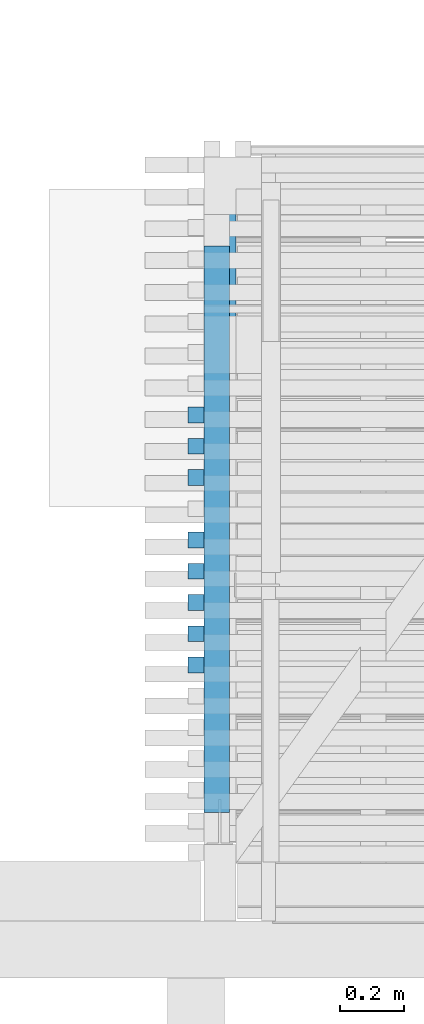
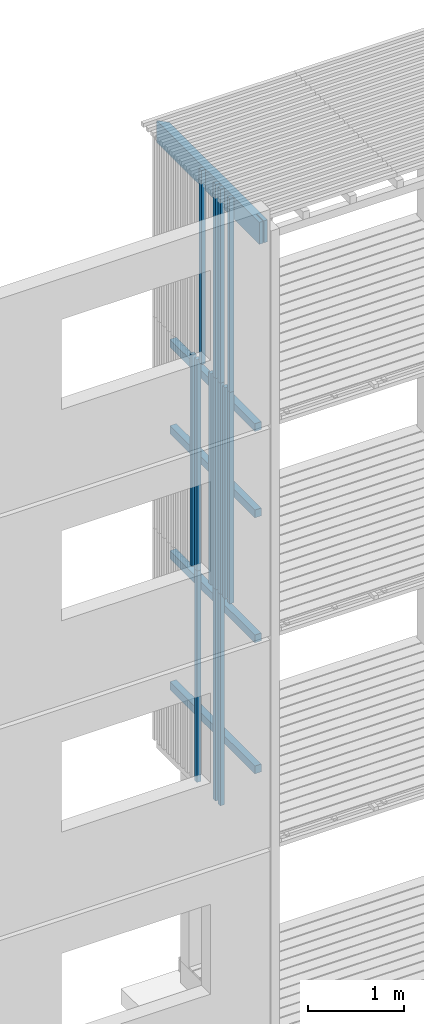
# One storey, part 114 of 182: 19 beams.
"""IFC2X3 building model written with IfcOpenShell, lengths in metres."""

from ifc_helpers import new_model, si_unit, frame, origin, place, context, project, spatial, faceted_brep, element, save


model = new_model("IFC2X3")

# Units and contexts
model_context = context("Model", 3, precision=1e-06, world=origin())
ifc_project = project(units=[si_unit("LENGTHUNIT", "METRE"), si_unit("PLANEANGLEUNIT", "RADIAN")], contexts=[model_context])

# Site, building, storey
site = spatial("IfcSite", under=ifc_project, CompositionType="ELEMENT")
building = spatial("IfcBuilding", under=site, CompositionType="ELEMENT")
storey = spatial("IfcBuildingStorey", under=building, Name="vs", CompositionType="ELEMENT", Elevation=-0.85)

# Beams
placement = place(None, origin())
beam_1_placement = place(placement, frame((53.06499999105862, 5.210077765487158, 3.401250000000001), z_axis=(0.0, 0.0, 1.0), x_axis=(0.0, 1.0, 0.0)))
element("IfcBeam", 1, at=beam_1_placement, inside=storey, Name="Support bardage", context=model_context, shape_type="Brep", body=[
    faceted_brep([(1.779999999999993, 0.039999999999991, -0.050000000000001), (1.779999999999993, 0.039999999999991, 0.05), (1.779999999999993, -0.040000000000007, 0.05), (1.779999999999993, -0.040000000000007, -0.050000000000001), (1.779999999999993, -0.040000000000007, 0.05), (1.779999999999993, 0.039999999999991, 0.05), (-4e-15, 0.039999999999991, 0.05), (-4e-15, -0.040000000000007, 0.05), (-4e-15, 0.039999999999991, 0.05), (1.779999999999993, 0.039999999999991, 0.05), (1.779999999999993, 0.039999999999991, -0.050000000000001), (-4e-15, 0.039999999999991, -0.050000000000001), (1.779999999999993, -0.040000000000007, -0.050000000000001), (1.779999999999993, -0.040000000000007, 0.05), (-4e-15, -0.040000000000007, 0.05), (-4e-15, -0.040000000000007, -0.050000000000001), (-4e-15, 0.039999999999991, -0.050000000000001), (1.779999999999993, 0.039999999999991, -0.050000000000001), (1.779999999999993, -0.040000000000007, -0.050000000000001), (-4e-15, -0.040000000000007, -0.050000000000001), (-4e-15, 0.039999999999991, 0.05), (-4e-15, 0.039999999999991, -0.050000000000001), (-4e-15, -0.040000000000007, -0.050000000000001), (-4e-15, -0.040000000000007, 0.05)], [[[0, 1, 2, 3]], [[4, 5, 6, 7]], [[8, 9, 10, 11]], [[12, 13, 14, 15]], [[16, 17, 18, 19]], [[20, 21, 22, 23]]]),
])
beam_2_placement = place(placement, frame((52.999999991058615, 5.968714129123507, 5.274999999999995), z_axis=(1.0, 0.0, 0.0), x_axis=(0.0, 0.0, 1.0)))
element("IfcBeam", 2, at=beam_2_placement, inside=storey, Name="Bardage", context=model_context, shape_type="Brep", body=[
    faceted_brep([(2.699999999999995, 0.025000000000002, 0.025000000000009), (2.699999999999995, -0.024999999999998, 0.025000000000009), (2.699999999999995, -0.024999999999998, -0.025000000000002), (2.699999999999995, 0.025000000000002, -0.025000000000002), (1e-15, 0.025000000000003, 0.025000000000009), (2.699999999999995, 0.025000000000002, 0.025000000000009), (2.699999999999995, 0.025000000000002, -0.025000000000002), (1e-15, 0.025000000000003, -0.025000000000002), (1e-15, -0.024999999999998, 0.025000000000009), (1e-15, 0.025000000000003, 0.025000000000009), (1e-15, 0.025000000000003, -0.025000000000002), (1e-15, -0.024999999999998, -0.025000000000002), (1e-15, 0.025000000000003, 0.025000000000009), (1e-15, -0.024999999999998, 0.025000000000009), (2.699999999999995, -0.024999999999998, 0.025000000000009), (2.699999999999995, 0.025000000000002, 0.025000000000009), (1e-15, -0.024999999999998, 0.025000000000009), (1e-15, -0.024999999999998, -0.025000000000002), (2.699999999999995, -0.024999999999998, -0.025000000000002), (2.699999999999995, -0.024999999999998, 0.025000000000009), (1e-15, -0.024999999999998, -0.025000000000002), (1e-15, 0.025000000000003, -0.025000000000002), (2.699999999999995, 0.025000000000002, -0.025000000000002), (2.699999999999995, -0.024999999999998, -0.025000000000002)], [[[0, 1, 2, 3]], [[4, 5, 6, 7]], [[8, 9, 10, 11]], [[12, 13, 14, 15]], [[16, 17, 18, 19]], [[20, 21, 22, 23]]]),
])
beam_3_placement = place(placement, frame((53.06499999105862, 5.210077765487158, 6.672499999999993), z_axis=(0.0, 0.0, 1.0), x_axis=(0.0, 1.0, 0.0)))
element("IfcBeam", 3, at=beam_3_placement, inside=storey, Name="Support bardage", context=model_context, shape_type="Brep", body=[
    faceted_brep([(1.779999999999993, 0.039999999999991, -0.05), (1.779999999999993, 0.039999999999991, 0.050000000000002), (1.779999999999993, -0.040000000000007, 0.050000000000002), (1.779999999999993, -0.040000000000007, -0.05), (1.779999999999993, -0.040000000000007, 0.050000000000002), (1.779999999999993, 0.039999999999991, 0.050000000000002), (-4e-15, 0.039999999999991, 0.050000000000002), (-4e-15, -0.040000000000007, 0.050000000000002), (-4e-15, 0.039999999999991, 0.050000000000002), (1.779999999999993, 0.039999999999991, 0.050000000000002), (1.779999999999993, 0.039999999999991, -0.05), (-4e-15, 0.039999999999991, -0.05), (1.779999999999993, -0.040000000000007, -0.05), (1.779999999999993, -0.040000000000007, 0.050000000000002), (-4e-15, -0.040000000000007, 0.050000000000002), (-4e-15, -0.040000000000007, -0.05), (-4e-15, 0.039999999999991, -0.05), (1.779999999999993, 0.039999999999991, -0.05), (1.779999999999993, -0.040000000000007, -0.05), (-4e-15, -0.040000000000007, -0.05), (-4e-15, 0.039999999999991, 0.050000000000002), (-4e-15, 0.039999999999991, -0.05), (-4e-15, -0.040000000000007, -0.05), (-4e-15, -0.040000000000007, 0.050000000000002)], [[[0, 1, 2, 3]], [[4, 5, 6, 7]], [[8, 9, 10, 11]], [[12, 13, 14, 15]], [[16, 17, 18, 19]], [[20, 21, 22, 23]]]),
])
beam_4_placement = place(placement, frame((52.999999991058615, 5.870532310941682, 2.575000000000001), z_axis=(1.0, 0.0, 0.0), x_axis=(0.0, 0.0, 1.0)))
element("IfcBeam", 4, at=beam_4_placement, inside=storey, Name="Bardage", context=model_context, shape_type="Brep", body=[
    faceted_brep([(2.699961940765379, -0.025000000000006, 0.025000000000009), (2.699961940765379, -0.025000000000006, -0.025000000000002), (2.699961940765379, 0.024999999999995, -0.025000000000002), (2.699961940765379, 0.024999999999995, 0.025000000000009), (0.0, -0.025000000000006, 0.025000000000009), (2.699961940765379, -0.025000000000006, 0.025000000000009), (2.699961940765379, 0.024999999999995, 0.025000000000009), (0.0, 0.024999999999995, 0.025000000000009), (0.0, -0.025000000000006, 0.025000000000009), (0.0, 0.024999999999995, 0.025000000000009), (0.0, 0.024999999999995, -0.025000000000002), (0.0, -0.025000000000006, -0.025000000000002), (0.0, -0.025000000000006, 0.025000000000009), (0.0, -0.025000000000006, -0.025000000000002), (2.699961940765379, -0.025000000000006, -0.025000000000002), (2.699961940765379, -0.025000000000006, 0.025000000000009), (0.0, -0.025000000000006, -0.025000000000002), (0.0, 0.024999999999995, -0.025000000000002), (2.699961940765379, 0.024999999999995, -0.025000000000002), (2.699961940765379, -0.025000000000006, -0.025000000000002), (0.0, 0.024999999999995, -0.025000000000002), (0.0, 0.024999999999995, 0.025000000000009), (2.699961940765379, 0.024999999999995, 0.025000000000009), (2.699961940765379, 0.024999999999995, -0.025000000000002)], [[[0, 1, 2, 3]], [[4, 5, 6, 7]], [[8, 9, 10, 11]], [[12, 13, 14, 15]], [[16, 17, 18, 19]], [[20, 21, 22, 23]]]),
])
beam_5_placement = place(placement, frame((52.999999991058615, 6.459623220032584, 5.274999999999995), z_axis=(1.0, 0.0, 0.0), x_axis=(0.0, 0.0, 1.0)))
element("IfcBeam", 5, at=beam_5_placement, inside=storey, Name="Bardage", context=model_context, shape_type="Brep", body=[
    faceted_brep([(2.699999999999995, 0.024999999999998, 0.025000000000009), (2.699999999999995, -0.025000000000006, 0.025000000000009), (2.699999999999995, -0.025000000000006, -0.025000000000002), (2.699999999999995, 0.024999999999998, -0.025000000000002), (1e-15, 0.024999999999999, 0.025000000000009), (2.699999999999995, 0.024999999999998, 0.025000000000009), (2.699999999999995, 0.024999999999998, -0.025000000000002), (1e-15, 0.024999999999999, -0.025000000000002), (1e-15, -0.025000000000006, 0.025000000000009), (1e-15, 0.024999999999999, 0.025000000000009), (1e-15, 0.024999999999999, -0.025000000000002), (1e-15, -0.025000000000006, -0.025000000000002), (1e-15, 0.024999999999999, 0.025000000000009), (1e-15, -0.025000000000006, 0.025000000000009), (2.699999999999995, -0.025000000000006, 0.025000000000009), (2.699999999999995, 0.024999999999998, 0.025000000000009), (1e-15, -0.025000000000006, 0.025000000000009), (1e-15, -0.025000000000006, -0.025000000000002), (2.699999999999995, -0.025000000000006, -0.025000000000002), (2.699999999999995, -0.025000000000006, 0.025000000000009), (1e-15, -0.025000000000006, -0.025000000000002), (1e-15, 0.024999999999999, -0.025000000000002), (2.699999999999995, 0.024999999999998, -0.025000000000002), (2.699999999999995, -0.025000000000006, -0.025000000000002)], [[[0, 1, 2, 3]], [[4, 5, 6, 7]], [[8, 9, 10, 11]], [[12, 13, 14, 15]], [[16, 17, 18, 19]], [[20, 21, 22, 23]]]),
])
beam_6_placement = place(placement, frame((52.999999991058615, 5.968714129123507, 2.575000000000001), z_axis=(1.0, 0.0, 0.0), x_axis=(0.0, 0.0, 1.0)))
element("IfcBeam", 6, at=beam_6_placement, inside=storey, Name="Bardage", context=model_context, shape_type="Brep", body=[
    faceted_brep([(2.699961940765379, -0.024999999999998, 0.025000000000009), (2.699961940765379, -0.024999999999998, -0.025000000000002), (2.699961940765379, 0.025000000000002, -0.025000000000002), (2.699961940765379, 0.025000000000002, 0.025000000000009), (0.0, -0.024999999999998, 0.025000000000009), (2.699961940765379, -0.024999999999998, 0.025000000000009), (2.699961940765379, 0.025000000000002, 0.025000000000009), (0.0, 0.025000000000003, 0.025000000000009), (0.0, -0.024999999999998, 0.025000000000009), (0.0, 0.025000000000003, 0.025000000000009), (0.0, 0.025000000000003, -0.025000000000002), (0.0, -0.024999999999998, -0.025000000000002), (0.0, -0.024999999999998, 0.025000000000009), (0.0, -0.024999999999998, -0.025000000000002), (2.699961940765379, -0.024999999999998, -0.025000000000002), (2.699961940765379, -0.024999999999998, 0.025000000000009), (0.0, -0.024999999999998, -0.025000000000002), (0.0, 0.025000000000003, -0.025000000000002), (2.699961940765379, 0.025000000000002, -0.025000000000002), (2.699961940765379, -0.024999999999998, -0.025000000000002), (0.0, 0.025000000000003, -0.025000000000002), (0.0, 0.025000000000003, 0.025000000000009), (2.699961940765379, 0.025000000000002, 0.025000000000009), (2.699961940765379, 0.025000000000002, -0.025000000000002)], [[[0, 1, 2, 3]], [[4, 5, 6, 7]], [[8, 9, 10, 11]], [[12, 13, 14, 15]], [[16, 17, 18, 19]], [[20, 21, 22, 23]]]),
])
beam_7_placement = place(placement, frame((52.999999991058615, 5.968714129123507, 7.974999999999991), z_axis=(1.0, 0.0, 0.0), x_axis=(0.0, 0.0, 1.0)))
element("IfcBeam", 7, at=beam_7_placement, inside=storey, Name="Bardage", context=model_context, shape_type="Brep", body=[
    faceted_brep([(0.0, -0.024999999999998, 0.025000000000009), (0.0, 0.025000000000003, 0.025000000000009), (0.0, 0.025000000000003, -0.025000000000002), (0.0, -0.024999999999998, -0.025000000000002), (2.479999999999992, 0.025000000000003, -0.025000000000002), (2.479999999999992, 0.025000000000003, 0.025000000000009), (2.479999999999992, -0.024999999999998, 0.025000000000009), (2.479999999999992, -0.024999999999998, -0.025000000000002), (0.0, 0.025000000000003, 0.025000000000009), (0.0, -0.024999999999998, 0.025000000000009), (2.479999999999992, -0.024999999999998, 0.025000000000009), (2.479999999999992, 0.025000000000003, 0.025000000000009), (0.0, 0.025000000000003, -0.025000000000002), (0.0, 0.025000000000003, 0.025000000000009), (2.479999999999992, 0.025000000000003, 0.025000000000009), (2.479999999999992, 0.025000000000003, -0.025000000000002), (0.0, -0.024999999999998, -0.025000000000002), (0.0, 0.025000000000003, -0.025000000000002), (2.479999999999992, 0.025000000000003, -0.025000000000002), (2.479999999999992, -0.024999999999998, -0.025000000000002), (2.479999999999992, -0.024999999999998, 0.025000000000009), (0.0, -0.024999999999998, 0.025000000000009), (0.0, -0.024999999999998, -0.025000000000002), (2.479999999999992, -0.024999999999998, -0.025000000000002)], [[[0, 1, 2, 3]], [[4, 5, 6, 7]], [[8, 9, 10, 11]], [[12, 13, 14, 15]], [[16, 17, 18, 19]], [[20, 21, 22, 23]]]),
])
beam_8_placement = place(placement, frame((52.999999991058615, 6.361441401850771, 5.274999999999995), z_axis=(1.0, 0.0, 0.0), x_axis=(0.0, 0.0, 1.0)))
element("IfcBeam", 8, at=beam_8_placement, inside=storey, Name="Bardage", context=model_context, shape_type="Brep", body=[
    faceted_brep([(2.699999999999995, 0.024999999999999, 0.025000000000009), (2.699999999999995, -0.024999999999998, 0.025000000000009), (2.699999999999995, -0.024999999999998, -0.025000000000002), (2.699999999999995, 0.024999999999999, -0.025000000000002), (1e-15, 0.024999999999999, 0.025000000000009), (2.699999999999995, 0.024999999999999, 0.025000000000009), (2.699999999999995, 0.024999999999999, -0.025000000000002), (1e-15, 0.024999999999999, -0.025000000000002), (1e-15, -0.024999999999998, 0.025000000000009), (1e-15, 0.024999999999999, 0.025000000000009), (1e-15, 0.024999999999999, -0.025000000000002), (1e-15, -0.024999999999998, -0.025000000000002), (1e-15, 0.024999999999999, 0.025000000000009), (1e-15, -0.024999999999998, 0.025000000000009), (2.699999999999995, -0.024999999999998, 0.025000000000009), (2.699999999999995, 0.024999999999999, 0.025000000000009), (1e-15, -0.024999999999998, 0.025000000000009), (1e-15, -0.024999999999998, -0.025000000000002), (2.699999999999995, -0.024999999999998, -0.025000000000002), (2.699999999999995, -0.024999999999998, 0.025000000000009), (1e-15, -0.024999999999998, -0.025000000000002), (1e-15, 0.024999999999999, -0.025000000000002), (2.699999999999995, 0.024999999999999, -0.025000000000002), (2.699999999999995, -0.024999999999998, -0.025000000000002)], [[[0, 1, 2, 3]], [[4, 5, 6, 7]], [[8, 9, 10, 11]], [[12, 13, 14, 15]], [[16, 17, 18, 19]], [[20, 21, 22, 23]]]),
])
beam_9_placement = place(placement, frame((52.999999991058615, 6.066895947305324, 5.274999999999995), z_axis=(1.0, 0.0, 0.0), x_axis=(0.0, 0.0, 1.0)))
element("IfcBeam", 9, at=beam_9_placement, inside=storey, Name="Bardage", context=model_context, shape_type="Brep", body=[
    faceted_brep([(2.699999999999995, 0.025000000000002, 0.025000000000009), (2.699999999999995, -0.024999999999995, 0.025000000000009), (2.699999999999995, -0.024999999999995, -0.025000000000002), (2.699999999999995, 0.025000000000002, -0.025000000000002), (1e-15, 0.025000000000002, 0.025000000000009), (2.699999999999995, 0.025000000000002, 0.025000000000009), (2.699999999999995, 0.025000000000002, -0.025000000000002), (1e-15, 0.025000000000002, -0.025000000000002), (1e-15, -0.024999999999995, 0.025000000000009), (1e-15, 0.025000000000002, 0.025000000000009), (1e-15, 0.025000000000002, -0.025000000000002), (1e-15, -0.024999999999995, -0.025000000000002), (1e-15, 0.025000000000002, 0.025000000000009), (1e-15, -0.024999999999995, 0.025000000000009), (2.699999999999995, -0.024999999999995, 0.025000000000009), (2.699999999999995, 0.025000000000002, 0.025000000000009), (1e-15, -0.024999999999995, 0.025000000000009), (1e-15, -0.024999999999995, -0.025000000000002), (2.699999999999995, -0.024999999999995, -0.025000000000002), (2.699999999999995, -0.024999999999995, 0.025000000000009), (1e-15, -0.024999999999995, -0.025000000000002), (1e-15, 0.025000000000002, -0.025000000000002), (2.699999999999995, 0.025000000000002, -0.025000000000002), (2.699999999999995, -0.024999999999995, -0.025000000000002)], [[[0, 1, 2, 3]], [[4, 5, 6, 7]], [[8, 9, 10, 11]], [[12, 13, 14, 15]], [[16, 17, 18, 19]], [[20, 21, 22, 23]]]),
])
beam_10_placement = place(placement, frame((52.999999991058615, 6.263259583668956, 7.974999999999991), z_axis=(1.0, 0.0, 0.0), x_axis=(0.0, 0.0, 1.0)))
element("IfcBeam", 10, at=beam_10_placement, inside=storey, Name="Bardage", context=model_context, shape_type="Brep", body=[
    faceted_brep([(0.0, -0.024999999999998, 0.025000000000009), (0.0, 0.025000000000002, 0.025000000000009), (0.0, 0.025000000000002, -0.025000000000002), (0.0, -0.024999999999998, -0.025000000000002), (2.479999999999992, 0.025000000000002, -0.025000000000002), (2.479999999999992, 0.025000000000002, 0.025000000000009), (2.479999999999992, -0.024999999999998, 0.025000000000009), (2.479999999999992, -0.024999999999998, -0.025000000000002), (0.0, 0.025000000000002, 0.025000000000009), (0.0, -0.024999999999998, 0.025000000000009), (2.479999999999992, -0.024999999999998, 0.025000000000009), (2.479999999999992, 0.025000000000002, 0.025000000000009), (0.0, 0.025000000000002, -0.025000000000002), (0.0, 0.025000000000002, 0.025000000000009), (2.479999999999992, 0.025000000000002, 0.025000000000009), (2.479999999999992, 0.025000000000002, -0.025000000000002), (0.0, -0.024999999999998, -0.025000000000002), (0.0, 0.025000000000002, -0.025000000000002), (2.479999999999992, 0.025000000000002, -0.025000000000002), (2.479999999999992, -0.024999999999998, -0.025000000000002), (2.479999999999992, -0.024999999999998, 0.025000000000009), (0.0, -0.024999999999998, 0.025000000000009), (0.0, -0.024999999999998, -0.025000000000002), (2.479999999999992, -0.024999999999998, -0.025000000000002)], [[[0, 1, 2, 3]], [[4, 5, 6, 7]], [[8, 9, 10, 11]], [[12, 13, 14, 15]], [[16, 17, 18, 19]], [[20, 21, 22, 23]]]),
])
beam_11_placement = place(placement, frame((53.06499999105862, 5.210077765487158, 7.774999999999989), z_axis=(0.0, 0.0, 1.0), x_axis=(0.0, 1.0, 0.0)))
element("IfcBeam", 11, at=beam_11_placement, inside=storey, Name="Support bardage", context=model_context, shape_type="Brep", body=[
    faceted_brep([(1.779999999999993, 0.039999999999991, -0.050000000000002), (1.779999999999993, 0.039999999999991, 0.050000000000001), (1.779999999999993, -0.040000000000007, 0.050000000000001), (1.779999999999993, -0.040000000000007, -0.050000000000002), (1.779999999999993, -0.040000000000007, 0.050000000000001), (1.779999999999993, 0.039999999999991, 0.050000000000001), (-4e-15, 0.039999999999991, 0.050000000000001), (-4e-15, -0.040000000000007, 0.050000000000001), (-4e-15, 0.039999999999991, 0.050000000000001), (1.779999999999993, 0.039999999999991, 0.050000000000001), (1.779999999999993, 0.039999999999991, -0.050000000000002), (-4e-15, 0.039999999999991, -0.050000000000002), (1.779999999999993, -0.040000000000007, -0.050000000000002), (1.779999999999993, -0.040000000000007, 0.050000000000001), (-4e-15, -0.040000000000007, 0.050000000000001), (-4e-15, -0.040000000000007, -0.050000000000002), (-4e-15, 0.039999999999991, -0.050000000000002), (1.779999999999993, 0.039999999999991, -0.050000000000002), (1.779999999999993, -0.040000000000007, -0.050000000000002), (-4e-15, -0.040000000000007, -0.050000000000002), (-4e-15, 0.039999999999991, 0.050000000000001), (-4e-15, 0.039999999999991, -0.050000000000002), (-4e-15, -0.040000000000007, -0.050000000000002), (-4e-15, -0.040000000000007, 0.050000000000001)], [[[0, 1, 2, 3]], [[4, 5, 6, 7]], [[8, 9, 10, 11]], [[12, 13, 14, 15]], [[16, 17, 18, 19]], [[20, 21, 22, 23]]]),
])
beam_12_placement = place(placement, frame((52.999999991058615, 5.870532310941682, 5.274999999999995), z_axis=(1.0, 0.0, 0.0), x_axis=(0.0, 0.0, 1.0)))
element("IfcBeam", 12, at=beam_12_placement, inside=storey, Name="Bardage", context=model_context, shape_type="Brep", body=[
    faceted_brep([(2.699999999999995, 0.024999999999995, 0.025000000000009), (2.699999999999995, -0.025000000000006, 0.025000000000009), (2.699999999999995, -0.025000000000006, -0.025000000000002), (2.699999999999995, 0.024999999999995, -0.025000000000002), (1e-15, 0.024999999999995, 0.025000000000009), (2.699999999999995, 0.024999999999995, 0.025000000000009), (2.699999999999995, 0.024999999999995, -0.025000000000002), (1e-15, 0.024999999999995, -0.025000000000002), (1e-15, -0.025000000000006, 0.025000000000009), (1e-15, 0.024999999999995, 0.025000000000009), (1e-15, 0.024999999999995, -0.025000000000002), (1e-15, -0.025000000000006, -0.025000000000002), (1e-15, 0.024999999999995, 0.025000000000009), (1e-15, -0.025000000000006, 0.025000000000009), (2.699999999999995, -0.025000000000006, 0.025000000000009), (2.699999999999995, 0.024999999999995, 0.025000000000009), (1e-15, -0.025000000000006, 0.025000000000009), (1e-15, -0.025000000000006, -0.025000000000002), (2.699999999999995, -0.025000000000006, -0.025000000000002), (2.699999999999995, -0.025000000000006, 0.025000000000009), (1e-15, -0.025000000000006, -0.025000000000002), (1e-15, 0.024999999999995, -0.025000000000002), (2.699999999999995, 0.024999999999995, -0.025000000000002), (2.699999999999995, -0.025000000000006, -0.025000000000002)], [[[0, 1, 2, 3]], [[4, 5, 6, 7]], [[8, 9, 10, 11]], [[12, 13, 14, 15]], [[16, 17, 18, 19]], [[20, 21, 22, 23]]]),
])
beam_13_placement = place(placement, frame((53.06499999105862, 5.210077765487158, 5.074999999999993), z_axis=(0.0, 0.0, 1.0), x_axis=(0.0, 1.0, 0.0)))
element("IfcBeam", 13, at=beam_13_placement, inside=storey, Name="Support bardage", context=model_context, shape_type="Brep", body=[
    faceted_brep([(1.779999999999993, 0.039999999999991, -0.050000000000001), (1.779999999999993, 0.039999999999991, 0.050000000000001), (1.779999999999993, -0.040000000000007, 0.050000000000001), (1.779999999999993, -0.040000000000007, -0.050000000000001), (1.779999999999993, -0.040000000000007, 0.050000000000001), (1.779999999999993, 0.039999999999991, 0.050000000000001), (-4e-15, 0.039999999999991, 0.050000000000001), (-4e-15, -0.040000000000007, 0.050000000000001), (-4e-15, 0.039999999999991, 0.050000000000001), (1.779999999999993, 0.039999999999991, 0.050000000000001), (1.779999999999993, 0.039999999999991, -0.050000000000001), (-4e-15, 0.039999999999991, -0.050000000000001), (1.779999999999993, -0.040000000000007, -0.050000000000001), (1.779999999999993, -0.040000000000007, 0.050000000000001), (-4e-15, -0.040000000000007, 0.050000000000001), (-4e-15, -0.040000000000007, -0.050000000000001), (-4e-15, 0.039999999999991, -0.050000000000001), (1.779999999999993, 0.039999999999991, -0.050000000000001), (1.779999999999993, -0.040000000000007, -0.050000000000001), (-4e-15, -0.040000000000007, -0.050000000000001), (-4e-15, 0.039999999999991, 0.050000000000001), (-4e-15, 0.039999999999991, -0.050000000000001), (-4e-15, -0.040000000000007, -0.050000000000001), (-4e-15, -0.040000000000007, 0.050000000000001)], [[[0, 1, 2, 3]], [[4, 5, 6, 7]], [[8, 9, 10, 11]], [[12, 13, 14, 15]], [[16, 17, 18, 19]], [[20, 21, 22, 23]]]),
])
beam_14_placement = place(placement, frame((53.074999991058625, 5.115077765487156, 10.314999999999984), z_axis=(0.0, 0.0, 1.0), x_axis=(0.0, 1.0, 0.0)))
element("IfcBeam", 14, at=beam_14_placement, inside=storey, Name="Sommier", context=model_context, shape_type="Brep", body=[
    faceted_brep([(0.0, -0.004000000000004, 0.140000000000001), (0.0, -0.049999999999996, 0.140000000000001), (2.054999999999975, -0.049999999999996, 0.140000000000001), (2.154999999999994, 0.049999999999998, 0.140000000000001), (0.0, 0.049999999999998, 0.140000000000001), (0.0, 0.003999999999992, 0.140000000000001), (0.137, 0.003999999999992, 0.140000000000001), (0.137, -0.004000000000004, 0.140000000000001), (2.054999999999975, -0.049999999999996, -0.140000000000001), (2.054999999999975, -0.049999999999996, 0.140000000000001), (0.0, -0.049999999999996, 0.140000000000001), (0.0, -0.049999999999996, -0.140000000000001), (2.054999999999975, -0.049999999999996, 0.140000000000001), (2.054999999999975, -0.049999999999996, -0.140000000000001), (2.154999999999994, 0.049999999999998, -0.140000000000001), (2.154999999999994, 0.049999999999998, 0.140000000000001), (0.0, 0.049999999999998, 0.140000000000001), (2.154999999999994, 0.049999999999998, 0.140000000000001), (2.154999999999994, 0.049999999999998, -0.140000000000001), (0.0, 0.049999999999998, -0.140000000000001), (0.0, 0.003999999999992, -0.140000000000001), (0.0, 0.003999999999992, 0.140000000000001), (0.0, 0.049999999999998, 0.140000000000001), (0.0, 0.049999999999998, -0.140000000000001), (0.0, -0.049999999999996, 0.140000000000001), (0.0, -0.004000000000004, 0.140000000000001), (0.0, -0.004000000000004, -0.140000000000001), (0.0, -0.049999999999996, -0.140000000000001), (0.0, 0.049999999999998, -0.140000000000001), (2.154999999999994, 0.049999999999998, -0.140000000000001), (2.054999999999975, -0.049999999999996, -0.140000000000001), (0.0, -0.049999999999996, -0.140000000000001), (0.0, -0.004000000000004, -0.140000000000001), (0.137, -0.004000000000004, -0.140000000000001), (0.137, 0.003999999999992, -0.140000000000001), (0.0, 0.003999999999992, -0.140000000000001), (0.137, 0.003999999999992, -0.140000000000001), (0.137, -0.004000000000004, -0.140000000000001), (0.137, -0.004000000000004, 0.140000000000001), (0.137, 0.003999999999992, 0.140000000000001), (0.0, -0.004000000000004, 0.140000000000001), (0.137, -0.004000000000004, 0.140000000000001), (0.137, -0.004000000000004, -0.140000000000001), (0.0, -0.004000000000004, -0.140000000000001), (0.137, 0.003999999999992, 0.140000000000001), (0.0, 0.003999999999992, 0.140000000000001), (0.0, 0.003999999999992, -0.140000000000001), (0.137, 0.003999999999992, -0.140000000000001)], [[[0, 1, 2, 3, 4, 5, 6, 7]], [[8, 9, 10, 11]], [[12, 13, 14, 15]], [[16, 17, 18, 19]], [[20, 21, 22, 23]], [[24, 25, 26, 27]], [[28, 29, 30, 31, 32, 33, 34, 35]], [[36, 37, 38, 39]], [[40, 41, 42, 43]], [[44, 45, 46, 47]]]),
])
beam_15_placement = place(placement, frame((52.999999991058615, 5.674168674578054, 7.974999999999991), z_axis=(1.0, 0.0, 0.0), x_axis=(0.0, 0.0, 1.0)))
element("IfcBeam", 15, at=beam_15_placement, inside=storey, Name="Bardage", context=model_context, shape_type="Brep", body=[
    faceted_brep([(0.0, -0.025000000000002, 0.025000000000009), (0.0, 0.025000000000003, 0.025000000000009), (0.0, 0.025000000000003, -0.025000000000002), (0.0, -0.025000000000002, -0.025000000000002), (2.479999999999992, 0.025000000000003, -0.025000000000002), (2.479999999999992, 0.025000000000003, 0.025000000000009), (2.479999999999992, -0.025000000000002, 0.025000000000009), (2.479999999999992, -0.025000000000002, -0.025000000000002), (0.0, 0.025000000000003, 0.025000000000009), (0.0, -0.025000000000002, 0.025000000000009), (2.479999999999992, -0.025000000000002, 0.025000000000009), (2.479999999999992, 0.025000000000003, 0.025000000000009), (0.0, 0.025000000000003, -0.025000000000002), (0.0, 0.025000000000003, 0.025000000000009), (2.479999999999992, 0.025000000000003, 0.025000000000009), (2.479999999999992, 0.025000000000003, -0.025000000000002), (0.0, -0.025000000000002, -0.025000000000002), (0.0, 0.025000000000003, -0.025000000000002), (2.479999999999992, 0.025000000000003, -0.025000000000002), (2.479999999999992, -0.025000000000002, -0.025000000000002), (2.479999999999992, -0.025000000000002, 0.025000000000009), (0.0, -0.025000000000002, 0.025000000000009), (0.0, -0.025000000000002, -0.025000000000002), (2.479999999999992, -0.025000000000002, -0.025000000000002)], [[[0, 1, 2, 3]], [[4, 5, 6, 7]], [[8, 9, 10, 11]], [[12, 13, 14, 15]], [[16, 17, 18, 19]], [[20, 21, 22, 23]]]),
])
beam_16_placement = place(placement, frame((52.999999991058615, 5.674168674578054, 5.274999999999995), z_axis=(1.0, 0.0, 0.0), x_axis=(0.0, 0.0, 1.0)))
element("IfcBeam", 16, at=beam_16_placement, inside=storey, Name="Bardage", context=model_context, shape_type="Brep", body=[
    faceted_brep([(2.699999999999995, 0.025000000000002, 0.025000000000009), (2.699999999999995, -0.025000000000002, 0.025000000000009), (2.699999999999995, -0.025000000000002, -0.025000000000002), (2.699999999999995, 0.025000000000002, -0.025000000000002), (1e-15, 0.025000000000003, 0.025000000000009), (2.699999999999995, 0.025000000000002, 0.025000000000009), (2.699999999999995, 0.025000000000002, -0.025000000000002), (1e-15, 0.025000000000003, -0.025000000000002), (1e-15, -0.025000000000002, 0.025000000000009), (1e-15, 0.025000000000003, 0.025000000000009), (1e-15, 0.025000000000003, -0.025000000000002), (1e-15, -0.025000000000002, -0.025000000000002), (1e-15, 0.025000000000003, 0.025000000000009), (1e-15, -0.025000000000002, 0.025000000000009), (2.699999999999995, -0.025000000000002, 0.025000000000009), (2.699999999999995, 0.025000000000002, 0.025000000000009), (1e-15, -0.025000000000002, 0.025000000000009), (1e-15, -0.025000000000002, -0.025000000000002), (2.699999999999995, -0.025000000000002, -0.025000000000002), (2.699999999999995, -0.025000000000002, 0.025000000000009), (1e-15, -0.025000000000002, -0.025000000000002), (1e-15, 0.025000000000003, -0.025000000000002), (2.699999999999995, 0.025000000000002, -0.025000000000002), (2.699999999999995, -0.025000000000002, -0.025000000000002)], [[[0, 1, 2, 3]], [[4, 5, 6, 7]], [[8, 9, 10, 11]], [[12, 13, 14, 15]], [[16, 17, 18, 19]], [[20, 21, 22, 23]]]),
])
beam_17_placement = place(placement, frame((52.999999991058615, 6.361441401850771, 2.575000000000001), z_axis=(1.0, 0.0, 0.0), x_axis=(0.0, 0.0, 1.0)))
element("IfcBeam", 17, at=beam_17_placement, inside=storey, Name="Bardage", context=model_context, shape_type="Brep", body=[
    faceted_brep([(2.699961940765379, -0.024999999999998, 0.025000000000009), (2.699961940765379, -0.024999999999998, -0.025000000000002), (2.699961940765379, 0.024999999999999, -0.025000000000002), (2.699961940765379, 0.024999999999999, 0.025000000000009), (0.0, -0.024999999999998, 0.025000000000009), (2.699961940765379, -0.024999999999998, 0.025000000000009), (2.699961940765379, 0.024999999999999, 0.025000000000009), (0.0, 0.024999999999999, 0.025000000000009), (0.0, -0.024999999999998, 0.025000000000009), (0.0, 0.024999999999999, 0.025000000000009), (0.0, 0.024999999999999, -0.025000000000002), (0.0, -0.024999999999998, -0.025000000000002), (0.0, -0.024999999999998, 0.025000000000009), (0.0, -0.024999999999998, -0.025000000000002), (2.699961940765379, -0.024999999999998, -0.025000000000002), (2.699961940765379, -0.024999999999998, 0.025000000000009), (0.0, -0.024999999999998, -0.025000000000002), (0.0, 0.024999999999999, -0.025000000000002), (2.699961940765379, 0.024999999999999, -0.025000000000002), (2.699961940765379, -0.024999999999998, -0.025000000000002), (0.0, 0.024999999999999, -0.025000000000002), (0.0, 0.024999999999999, 0.025000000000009), (2.699961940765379, 0.024999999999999, 0.025000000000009), (2.699961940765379, 0.024999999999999, -0.025000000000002)], [[[0, 1, 2, 3]], [[4, 5, 6, 7]], [[8, 9, 10, 11]], [[12, 13, 14, 15]], [[16, 17, 18, 19]], [[20, 21, 22, 23]]]),
])
beam_18_placement = place(placement, frame((52.999999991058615, 5.870532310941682, 7.974999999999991), z_axis=(1.0, 0.0, 0.0), x_axis=(0.0, 0.0, 1.0)))
element("IfcBeam", 18, at=beam_18_placement, inside=storey, Name="Bardage", context=model_context, shape_type="Brep", body=[
    faceted_brep([(0.0, -0.025000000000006, 0.025000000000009), (0.0, 0.024999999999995, 0.025000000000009), (0.0, 0.024999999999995, -0.025000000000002), (0.0, -0.025000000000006, -0.025000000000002), (2.479999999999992, 0.024999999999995, -0.025000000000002), (2.479999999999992, 0.024999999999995, 0.025000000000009), (2.479999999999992, -0.025000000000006, 0.025000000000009), (2.479999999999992, -0.025000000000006, -0.025000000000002), (0.0, 0.024999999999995, 0.025000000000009), (0.0, -0.025000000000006, 0.025000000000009), (2.479999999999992, -0.025000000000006, 0.025000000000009), (2.479999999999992, 0.024999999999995, 0.025000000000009), (0.0, 0.024999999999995, -0.025000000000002), (0.0, 0.024999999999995, 0.025000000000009), (2.479999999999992, 0.024999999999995, 0.025000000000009), (2.479999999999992, 0.024999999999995, -0.025000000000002), (0.0, -0.025000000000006, -0.025000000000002), (0.0, 0.024999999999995, -0.025000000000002), (2.479999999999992, 0.024999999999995, -0.025000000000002), (2.479999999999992, -0.025000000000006, -0.025000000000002), (2.479999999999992, -0.025000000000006, 0.025000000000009), (0.0, -0.025000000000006, 0.025000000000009), (0.0, -0.025000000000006, -0.025000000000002), (2.479999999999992, -0.025000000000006, -0.025000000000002)], [[[0, 1, 2, 3]], [[4, 5, 6, 7]], [[8, 9, 10, 11]], [[12, 13, 14, 15]], [[16, 17, 18, 19]], [[20, 21, 22, 23]]]),
])
beam_19_placement = place(placement, frame((52.999999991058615, 5.772350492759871, 5.274999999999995), z_axis=(1.0, 0.0, 0.0), x_axis=(0.0, 0.0, 1.0)))
element("IfcBeam", 19, at=beam_19_placement, inside=storey, Name="Bardage", context=model_context, shape_type="Brep", body=[
    faceted_brep([(2.699999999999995, 0.024999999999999, 0.025000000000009), (2.699999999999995, -0.024999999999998, 0.025000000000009), (2.699999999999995, -0.024999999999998, -0.025000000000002), (2.699999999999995, 0.024999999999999, -0.025000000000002), (1e-15, 0.024999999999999, 0.025000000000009), (2.699999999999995, 0.024999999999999, 0.025000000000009), (2.699999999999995, 0.024999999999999, -0.025000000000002), (1e-15, 0.024999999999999, -0.025000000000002), (1e-15, -0.024999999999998, 0.025000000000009), (1e-15, 0.024999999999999, 0.025000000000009), (1e-15, 0.024999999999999, -0.025000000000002), (1e-15, -0.024999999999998, -0.025000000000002), (1e-15, 0.024999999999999, 0.025000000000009), (1e-15, -0.024999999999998, 0.025000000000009), (2.699999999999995, -0.024999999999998, 0.025000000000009), (2.699999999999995, 0.024999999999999, 0.025000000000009), (1e-15, -0.024999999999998, 0.025000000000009), (1e-15, -0.024999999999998, -0.025000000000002), (2.699999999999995, -0.024999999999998, -0.025000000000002), (2.699999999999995, -0.024999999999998, 0.025000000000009), (1e-15, -0.024999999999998, -0.025000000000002), (1e-15, 0.024999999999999, -0.025000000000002), (2.699999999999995, 0.024999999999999, -0.025000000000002), (2.699999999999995, -0.024999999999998, -0.025000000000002)], [[[0, 1, 2, 3]], [[4, 5, 6, 7]], [[8, 9, 10, 11]], [[12, 13, 14, 15]], [[16, 17, 18, 19]], [[20, 21, 22, 23]]]),
])

save(model, "model.ifc")
